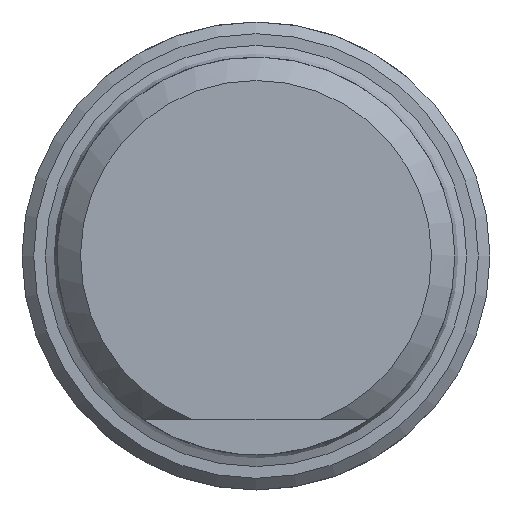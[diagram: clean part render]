
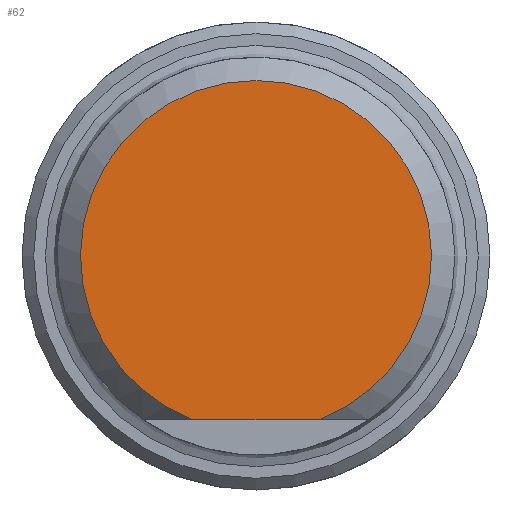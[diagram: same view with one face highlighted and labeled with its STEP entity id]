
A CAD part, front view. The second image highlights one B-rep face of the part: STEP entity #62.
In plain terms, the highlighted planar face has unit normal (0, -1, 0).
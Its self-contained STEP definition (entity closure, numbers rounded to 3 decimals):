
#62=ADVANCED_FACE('',(#384),#386,.F.);
#384=FACE_BOUND('',#385,.T.);
#385=EDGE_LOOP('',(#692,#693));
#386=PLANE('',#387);
#387=AXIS2_PLACEMENT_3D('',#388,#389,#390);
#388=CARTESIAN_POINT('',(0.,-318.,0.));
#389=DIRECTION('',(0.,1.,0.));
#390=DIRECTION('',(-1.,0.,0.));
#692=ORIENTED_EDGE('',*,*,#820,.T.);
#693=ORIENTED_EDGE('',*,*,#816,.T.);
#816=EDGE_CURVE('',#882,#880,#883,.T.);
#820=EDGE_CURVE('',#880,#882,#889,.F.);
#880=VERTEX_POINT('',#993);
#882=VERTEX_POINT('',#1013);
#883=CIRCLE('',#1014,7.5);
#889=LINE('',#1047,#1048);
#993=CARTESIAN_POINT('',(-2.693,-318.,-7.));
#1013=CARTESIAN_POINT('',(2.693,-318.,-7.));
#1014=AXIS2_PLACEMENT_3D('',#1015,#1016,#1017);
#1015=CARTESIAN_POINT('',(0.,-318.,0.));
#1016=DIRECTION('',(0.,-1.,0.));
#1017=DIRECTION('',(0.359,0.,-0.933));
#1047=CARTESIAN_POINT('',(2.693,-318.,-7.));
#1048=VECTOR('',#1049,1.);
#1049=DIRECTION('',(-1.,0.,0.));
